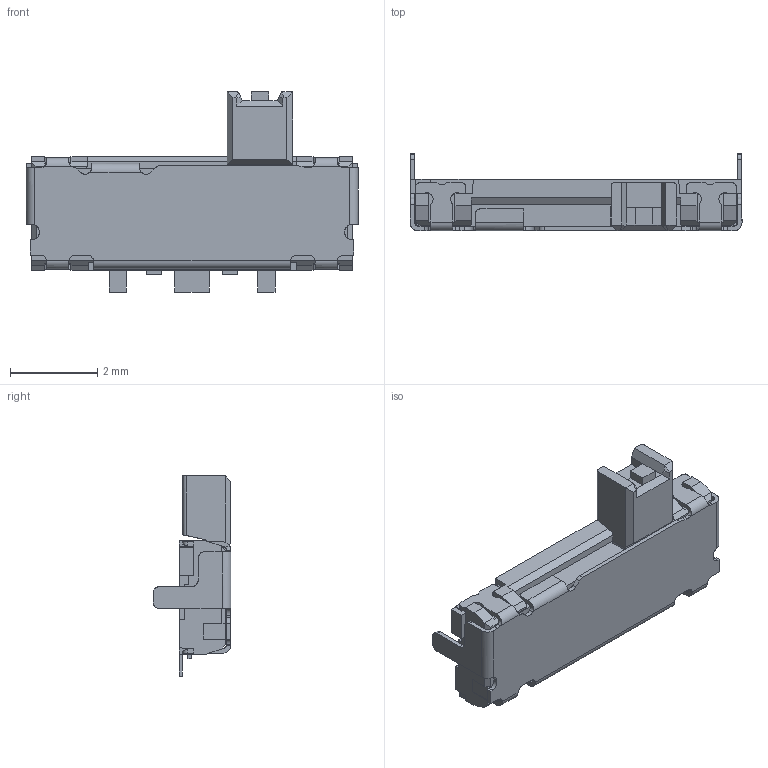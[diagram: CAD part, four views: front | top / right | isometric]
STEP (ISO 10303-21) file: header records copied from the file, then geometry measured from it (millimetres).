
FILE_DESCRIPTION (( 'STEP AP214' ), '1' );
FILE_NAME ('SSAL220200 3D.STEP', '2013-03-28T11:39:57', ( 'user' ), ( 'Hewlett-Packard Company' ), 'SwSTEP 2.0', 'SolidWorks 2012', '' );
FILE_SCHEMA (( 'AUTOMOTIVE_DESIGN' ));
Length unit declared in the file: millimetre
Products named in the file (1): SSAL220200 3D
Bounding box: 7.6 x 1.78 x 4.59 mm (x, y, z)
Volume: 23.1 mm3; surface area: 103.1 mm2
Topology: 1 solids, 2 shells, 441 faces, 1225 edges, 792 vertices
Faces by surface type: plane 322, cylinder 105, bspline 14
Entity records: 16831 total; most frequent: CARTESIAN_POINT 3603, ORIENTED_EDGE 2450, DIRECTION 1927, EDGE_CURVE 1225, LINE 975, VECTOR 975, VERTEX_POINT 792, AXIS2_PLACEMENT_3D 476
